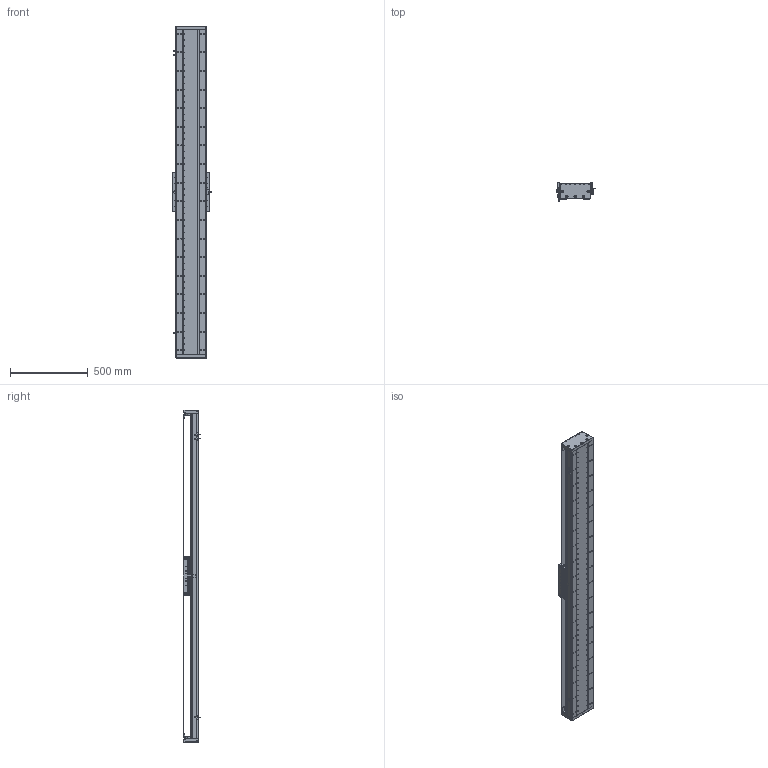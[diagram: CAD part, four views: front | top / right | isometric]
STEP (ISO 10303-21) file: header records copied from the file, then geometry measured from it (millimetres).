
FILE_DESCRIPTION (( 'STEP AP203' ), '1' );
FILE_NAME ('DA-C195-C3-T1800-C010-0.2 眻盄萇儂.STEP', '2025-08-15T01:36:11', ( '' ), ( '' ), 'SwSTEP 2.0', 'SolidWorks 2019', '' );
FILE_SCHEMA (( 'CONFIG_CONTROL_DESIGN' ));
Length unit declared in the file: millimetre
Products named in the file (15): DA195詩湍郪璃; DA-C195-C3-T1800-C010-0.2 眻盄萇儂; IU-CU195-L-00 菁釱(L2100); LMT黍杅芛; CU195-C3賑輸-俋楷; DA195詩湍裔啣; PM-T45ㄗ侂狟ㄘ; IU-CU195-L 菁釱絳寢; DA165-GYP-00 光电感应片(默认); MS200 棠掑喜S315-T240; 葩璃 DA95-GT-T-00; DA195詩湍菜輸; DA-C195-GD-DB-H-00 傷啣; DA95-HXJ-00 遣喳砎蝶; DA195詩湍嶺輸
Assembly tree (29 placements, depth 3):
  DA-C195-C3-T1800-C010-0.2 眻盄萇儂
    DA195詩湍郪璃
      DA195詩湍菜輸  x2
      DA195詩湍裔啣
      DA195詩湍嶺輸  x2
      DA95-HXJ-00 遣喳砎蝶  x8
      DA-C195-GD-DB-H-00 傷啣  x2
    IU-CU195-L 菁釱絳寢
      IU-CU195-L-00 菁釱(L2100)
      葩璃 DA95-GT-T-00  x4
    LMT黍杅芛
    MS200 棠掑喜S315-T240
    PM-T45ㄗ侂狟ㄘ  x3
    DA165-GYP-00 光电感应片(默认)
    CU195-C3賑輸-俋楷
Bounding box: 248 x 115.45 x 2140 mm (x, y, z)
Volume: 13010892.3 mm3; surface area: 3783730.5 mm2
Topology: 86 solids, 118 shells, 4136 faces, 11439 edges, 7185 vertices
Faces by surface type: cylinder 2178, plane 1356, cone 514, torus 52, sphere 36
Entity records: 129365 total; most frequent: CARTESIAN_POINT 33772, ORIENTED_EDGE 19794, DIRECTION 19366, EDGE_CURVE 9897, AXIS2_PLACEMENT_3D 7261, VERTEX_POINT 6387, LINE 4844, VECTOR 4844
